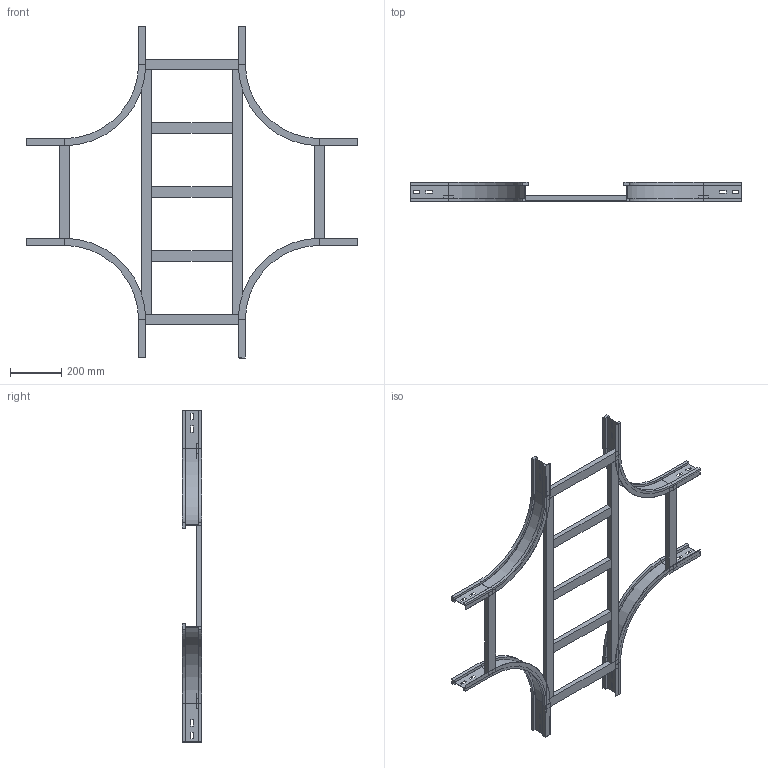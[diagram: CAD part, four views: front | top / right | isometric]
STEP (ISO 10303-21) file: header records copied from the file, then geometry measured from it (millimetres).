
FILE_DESCRIPTION (( 'STEP AP214' ), '1' );
FILE_NAME ('17S3C400.step', '2025-02-21T16:18:29', ( '' ), ( '' ), 'SwSTEP 2.0', 'SolidWorks 2023', '' );
FILE_SCHEMA (( 'AUTOMOTIVE_DESIGN' ));
Length unit declared in the file: millimetre
Products named in the file (5): LONGH.INTERNO 90°_H75_R300; 17S3C400; TRAVERSINO_INTERMEDIO_X_R300+400; TRAVERSINO_400; TRAVERSINO_LONG._R300+400
Assembly tree (13 placements, depth 2):
  17S3C400
    LONGH.INTERNO 90°_H75_R300  x4
    TRAVERSINO_400  x4
    TRAVERSINO_INTERMEDIO_X_R300+400  x3
    TRAVERSINO_LONG._R300+400  x2
Bounding box: 1300 x 75 x 1300 mm (x, y, z)
Volume: 5125661.7 mm3; surface area: 1316672.8 mm2
Topology: 13 solids, 13 shells, 270 faces, 636 edges, 392 vertices
Faces by surface type: plane 246, cylinder 24
Entity records: 2234 total; most frequent: CARTESIAN_POINT 360, DIRECTION 356, ORIENTED_EDGE 336, EDGE_CURVE 168, VECTOR 156, LINE 156, VERTEX_POINT 104, AXIS2_PLACEMENT_3D 100
